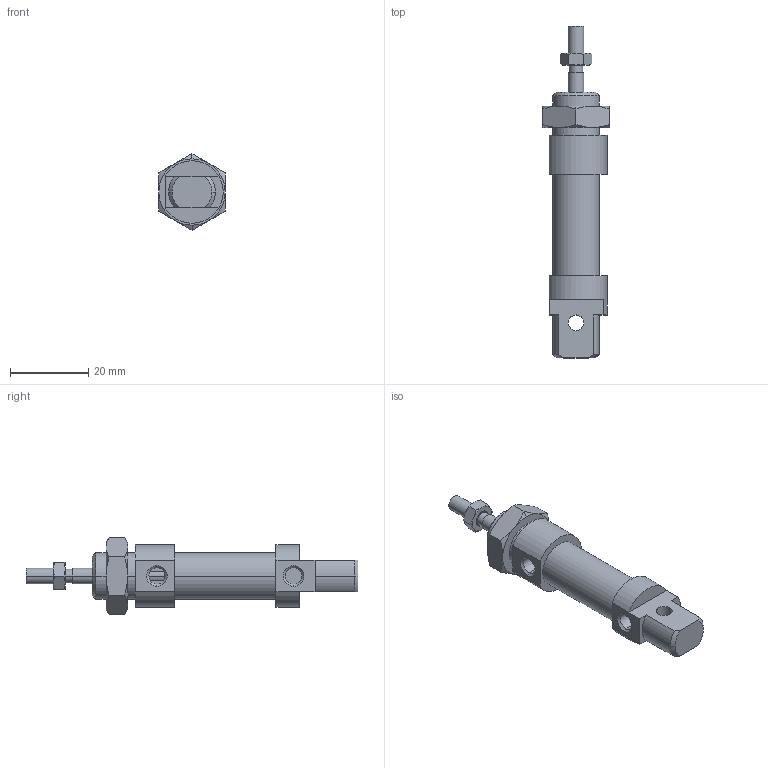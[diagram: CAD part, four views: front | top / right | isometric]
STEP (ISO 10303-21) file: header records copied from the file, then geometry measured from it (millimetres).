
FILE_DESCRIPTION((''),'2;1');
FILE_NAME('I:\DOC-EDP\Lib-3d\1200\CILINDRI\1260\1260_08_0000.stp','2003-04-02T14:54:56',('maffial1'),(''),'Autodesk Inventor (R) 6.0','Autodesk Inventor (R) 6.0','');
FILE_SCHEMA(('AUTOMOTIVE_DESIGN { 1 0 10303 214 1 1 1 1 }'));
Length unit declared in the file: millimetre
Products named in the file (5): 1260_08_0000; S1260_08_0; 1200_08_05; 1200_08_06; C1260_08_0
Assembly tree (4 placements, depth 2):
  1260_08_0000
    S1260_08_0
    1200_08_05
    1200_08_06
    C1260_08_0
Bounding box: 17 x 85 x 19.63 mm (x, y, z)
Volume: 9627.2 mm3; surface area: 5175.9 mm2
Topology: 4 solids, 4 shells, 117 faces, 261 edges, 158 vertices
Faces by surface type: cone 40, plane 34, cylinder 22, bspline 21
Entity records: 3580 total; most frequent: CARTESIAN_POINT 992, DIRECTION 529, ORIENTED_EDGE 522, EDGE_CURVE 261, AXIS2_PLACEMENT_3D 219, VERTEX_POINT 158, EDGE_LOOP 131, FACE_OUTER_BOUND 117
